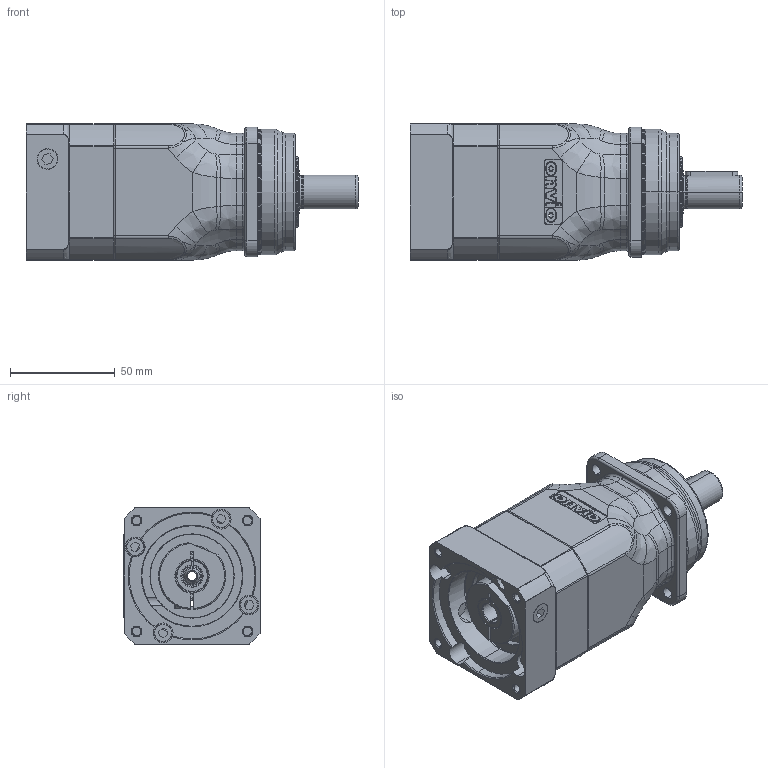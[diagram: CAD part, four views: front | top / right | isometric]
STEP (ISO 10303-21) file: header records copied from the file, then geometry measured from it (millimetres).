
FILE_DESCRIPTION (( 'STEP AP214' ), '1' );
FILE_NAME ('AH-010-RRR-FFF-MMM-S-LL-XXX-AXX-0000.STEP', '2019-10-11T20:31:35', ( '' ), ( '' ), 'SwSTEP 2.0', 'SolidWorks 2019', '' );
FILE_SCHEMA (( 'AUTOMOTIVE_DESIGN' ));
Length unit declared in the file: millimetre
Products named in the file (1): AH-010-RRR-FFF-MMM-S-LL-XXX-AXX-0000
Bounding box: 158.5 x 65.08 x 65 mm (x, y, z)
Surface area: 53227.9 mm2 (no closed solid volume)
Topology: 0 solids, 87 shells, 903 faces, 3759 edges, 2887 vertices
Faces by surface type: cylinder 295, plane 254, torus 179, bspline 94, cone 81
Entity records: 59596 total; most frequent: CARTESIAN_POINT 21212, DIRECTION 5355, ORIENTED_EDGE 5347, EDGE_CURVE 3744, VERTEX_POINT 2887, AXIS2_PLACEMENT_3D 1877, LINE 1601, VECTOR 1601
